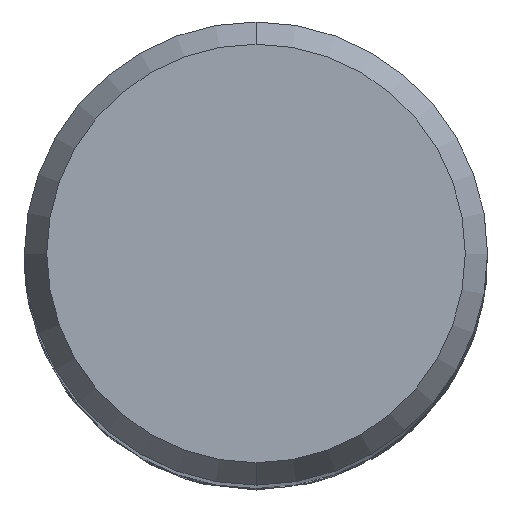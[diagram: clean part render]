
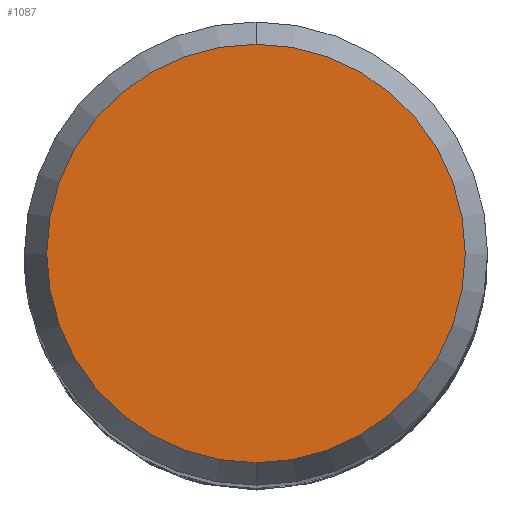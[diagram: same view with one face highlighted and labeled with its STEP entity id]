
A CAD part, top view. The second image highlights one B-rep face of the part: STEP entity #1087.
In plain terms, the highlighted planar face has unit normal (0, 0, 1).
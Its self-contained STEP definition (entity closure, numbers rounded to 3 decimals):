
#643=EDGE_CURVE('',#793,#1157,#1504,.T.);
#707=EDGE_CURVE('',#1157,#793,#1572,.T.);
#793=VERTEX_POINT('',#1667);
#1087=ADVANCED_FACE('',(#1986),#1987,.T.);
#1157=VERTEX_POINT('',#2063);
#1504=CIRCLE('',#4446,5.423);
#1572=CIRCLE('',#4700,5.423);
#1667=CARTESIAN_POINT('',(0.0,5.423,0.0));
#1986=FACE_OUTER_BOUND('',#7991,.T.);
#1987=PLANE('',#7992);
#2063=CARTESIAN_POINT('',(0.,-5.423,0.0));
#4446=AXIS2_PLACEMENT_3D('',#9071,#9072,#9073);
#4700=AXIS2_PLACEMENT_3D('',#9117,#9118,#9119);
#7991=EDGE_LOOP('',(#9597,#9598));
#7992=AXIS2_PLACEMENT_3D('',#9599,#9600,#9601);
#9071=CARTESIAN_POINT('',(0.0,0.0,0.0));
#9072=DIRECTION('',(0.0,0.0,-1.0));
#9073=DIRECTION('',(0.0,1.0,0.0));
#9117=CARTESIAN_POINT('',(0.0,0.0,0.0));
#9118=DIRECTION('',(0.0,0.0,-1.0));
#9119=DIRECTION('',(0.0,1.0,0.0));
#9597=ORIENTED_EDGE('',*,*,#643,.F.);
#9598=ORIENTED_EDGE('',*,*,#707,.F.);
#9599=CARTESIAN_POINT('',(0.0,2.711,0.0));
#9600=DIRECTION('',(-0.0,0.0,1.0));
#9601=DIRECTION('',(0.0,-1.0,0.0));
